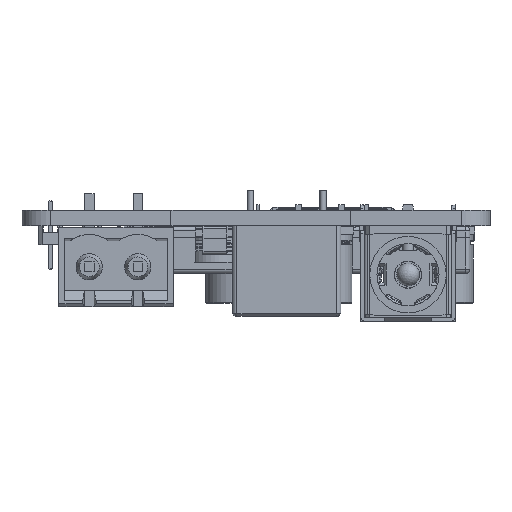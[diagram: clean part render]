
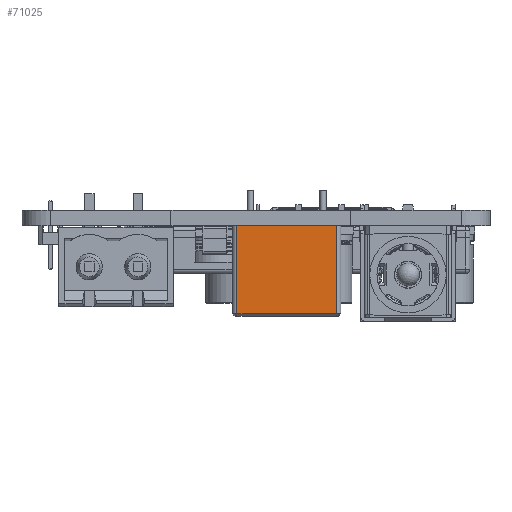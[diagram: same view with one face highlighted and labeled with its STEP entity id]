
A CAD part, front view. The second image highlights one B-rep face of the part: STEP entity #71025.
In plain terms, the highlighted planar face has unit normal (0, -1, 0) as drawn and (0, 0, -1) by its records, which use the part's own axes.
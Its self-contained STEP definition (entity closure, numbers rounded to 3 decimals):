
#9287=FACE_OUTER_BOUND('',#13160,.T.);
#13160=EDGE_LOOP('',(#64637,#64638,#64639,#64640));
#20896=LINE('',#129141,#28657);
#20903=LINE('',#129163,#28664);
#20904=LINE('',#129166,#28665);
#20905=LINE('',#129167,#28666);
#28657=VECTOR('',#94412,1.);
#28664=VECTOR('',#94431,1.);
#28665=VECTOR('',#94434,1.);
#28666=VECTOR('',#94435,1.);
#35093=VERTEX_POINT('',#129138);
#35094=VERTEX_POINT('',#129140);
#35103=VERTEX_POINT('',#129160);
#35104=VERTEX_POINT('',#129165);
#44946=EDGE_CURVE('',#35094,#35093,#20896,.T.);
#44957=EDGE_CURVE('',#35103,#35094,#20903,.T.);
#44958=EDGE_CURVE('',#35103,#35104,#20904,.T.);
#44959=EDGE_CURVE('',#35104,#35093,#20905,.T.);
#64637=ORIENTED_EDGE('',*,*,#44958,.F.);
#64638=ORIENTED_EDGE('',*,*,#44957,.T.);
#64639=ORIENTED_EDGE('',*,*,#44946,.T.);
#64640=ORIENTED_EDGE('',*,*,#44959,.F.);
#67412=PLANE('',#76529);
#71025=ADVANCED_FACE('',(#9287),#67412,.F.);
#76529=AXIS2_PLACEMENT_3D('',#129164,#94432,#94433);
#94412=DIRECTION('',(-1.,0.,0.));
#94431=DIRECTION('',(0.,-1.,0.));
#94432=DIRECTION('center_axis',(0.,0.,1.));
#94433=DIRECTION('ref_axis',(1.,0.,0.));
#94434=DIRECTION('',(-1.,0.,0.));
#94435=DIRECTION('',(0.,-1.,0.));
#129138=CARTESIAN_POINT('',(-5.19,0.,-3.15));
#129140=CARTESIAN_POINT('',(5.19,0.,-3.15));
#129141=CARTESIAN_POINT('',(-5.19,0.,-3.15));
#129160=CARTESIAN_POINT('',(5.19,9.225,-3.15));
#129163=CARTESIAN_POINT('',(5.19,9.5,-3.15));
#129164=CARTESIAN_POINT('Origin',(-5.19,9.5,-3.15));
#129165=CARTESIAN_POINT('',(-5.19,9.225,-3.15));
#129166=CARTESIAN_POINT('',(5.19,9.225,-3.15));
#129167=CARTESIAN_POINT('',(-5.19,9.5,-3.15));
